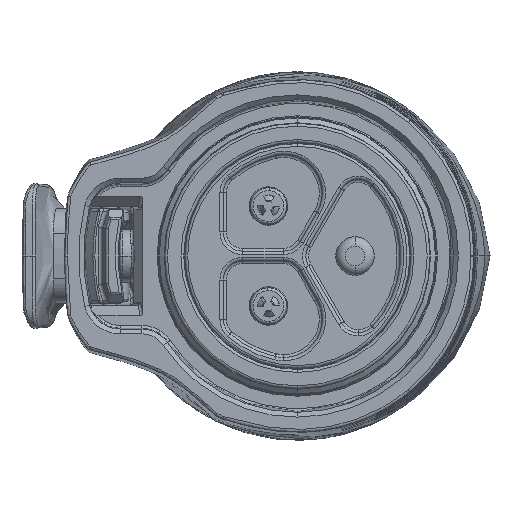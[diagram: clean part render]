
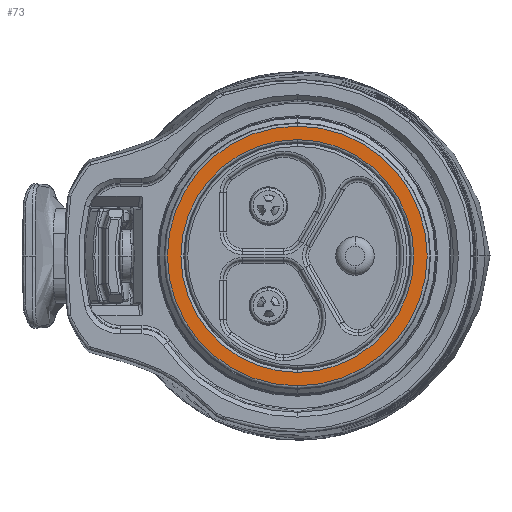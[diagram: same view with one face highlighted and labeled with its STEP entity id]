
A CAD part, left-side view. The second image highlights one B-rep face of the part: STEP entity #73.
In plain terms, the highlighted planar face has unit normal (-1, 0, 0).
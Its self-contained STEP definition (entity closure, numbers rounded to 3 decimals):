
#73 = ADVANCED_FACE ( 'NONE', ( #38114, #89562 ), #75599, .F. ) ;
#2424 = AXIS2_PLACEMENT_3D ( 'NONE', #45874, #67481, #116767 ) ;
#3370 = CARTESIAN_POINT ( 'NONE',  ( 0., 0., 0. ) ) ;
#7788 = EDGE_CURVE ( 'NONE', #23494, #99250, #116267, .T. ) ;
#16828 = DIRECTION ( 'NONE',  ( 0., 0., -1. ) ) ;
#20091 = VERTEX_POINT ( 'NONE', #22266 ) ;
#21175 = EDGE_LOOP ( 'NONE', ( #112576, #97921 ) ) ;
#22265 = DIRECTION ( 'NONE',  ( 0., 0., -1. ) ) ;
#22266 = CARTESIAN_POINT ( 'NONE',  ( 0., 0., 13.502 ) ) ;
#23494 = VERTEX_POINT ( 'NONE', #62338 ) ;
#23987 = EDGE_CURVE ( 'NONE', #20091, #24361, #113705, .T. ) ;
#24361 = VERTEX_POINT ( 'NONE', #71836 ) ;
#38114 = FACE_BOUND ( 'NONE', #88030, .T. ) ;
#42397 = ORIENTED_EDGE ( 'NONE', *, *, #83227, .T. ) ;
#43639 = DIRECTION ( 'NONE',  ( 1., 0., 0. ) ) ;
#45874 = CARTESIAN_POINT ( 'NONE',  ( 0., 11.8, 0. ) ) ;
#49902 = DIRECTION ( 'NONE',  ( -1., 0., 0. ) ) ;
#50658 = AXIS2_PLACEMENT_3D ( 'NONE', #3370, #43639, #105597 ) ;
#62338 = CARTESIAN_POINT ( 'NONE',  ( 0., 0., 12.101 ) ) ;
#67481 = DIRECTION ( 'NONE',  ( 1., 0., 0. ) ) ;
#69713 = CIRCLE ( 'NONE', #100030, 13.502 ) ;
#71836 = CARTESIAN_POINT ( 'NONE',  ( 0., 0., -13.502 ) ) ;
#75599 = PLANE ( 'NONE',  #2424 ) ;
#77974 = CIRCLE ( 'NONE', #80239, 12.101 ) ;
#78329 = DIRECTION ( 'NONE',  ( 1., 0., 0. ) ) ;
#80239 = AXIS2_PLACEMENT_3D ( 'NONE', #110105, #78329, #16828 ) ;
#81373 = CARTESIAN_POINT ( 'NONE',  ( 0., 0., 0. ) ) ;
#83227 = EDGE_CURVE ( 'NONE', #99250, #23494, #77974, .T. ) ;
#84662 = DIRECTION ( 'NONE',  ( -1., 0., 0. ) ) ;
#86075 = EDGE_CURVE ( 'NONE', #24361, #20091, #69713, .T. ) ;
#88030 = EDGE_LOOP ( 'NONE', ( #42397, #124948 ) ) ;
#89562 = FACE_OUTER_BOUND ( 'NONE', #21175, .T. ) ;
#97921 = ORIENTED_EDGE ( 'NONE', *, *, #23987, .T. ) ;
#99250 = VERTEX_POINT ( 'NONE', #103446 ) ;
#100030 = AXIS2_PLACEMENT_3D ( 'NONE', #81373, #49902, #132837 ) ;
#103446 = CARTESIAN_POINT ( 'NONE',  ( 0., 0., -12.101 ) ) ;
#105597 = DIRECTION ( 'NONE',  ( 0., 0., -1. ) ) ;
#105701 = CARTESIAN_POINT ( 'NONE',  ( 0., 0., 0. ) ) ;
#110105 = CARTESIAN_POINT ( 'NONE',  ( 0., 0., 0. ) ) ;
#112576 = ORIENTED_EDGE ( 'NONE', *, *, #86075, .T. ) ;
#113705 = CIRCLE ( 'NONE', #116455, 13.502 ) ;
#116267 = CIRCLE ( 'NONE', #50658, 12.101 ) ;
#116455 = AXIS2_PLACEMENT_3D ( 'NONE', #105701, #84662, #22265 ) ;
#116767 = DIRECTION ( 'NONE',  ( 0., 0., -1. ) ) ;
#124948 = ORIENTED_EDGE ( 'NONE', *, *, #7788, .T. ) ;
#132837 = DIRECTION ( 'NONE',  ( 0., 0., -1. ) ) ;
